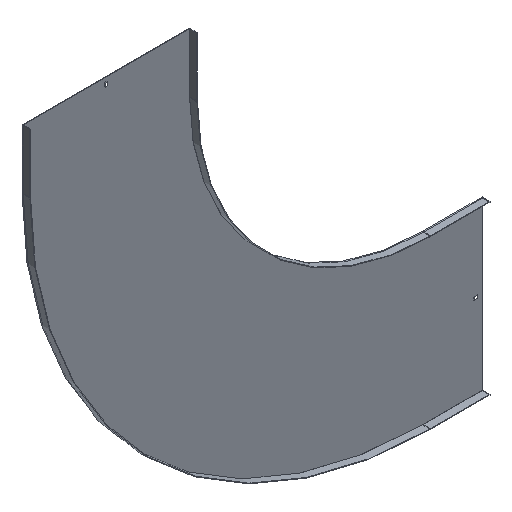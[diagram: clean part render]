
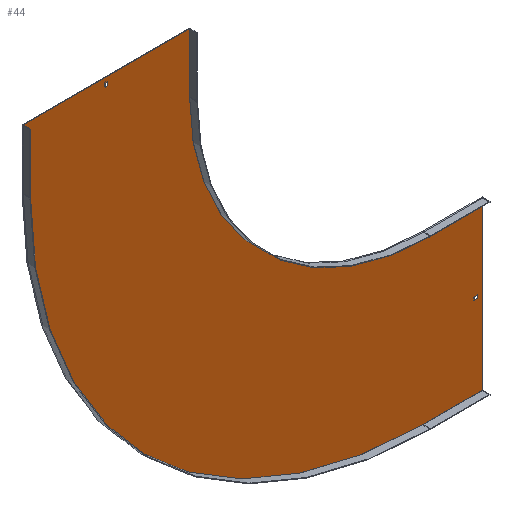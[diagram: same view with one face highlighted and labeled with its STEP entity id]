
A CAD part, isometric view. The second image highlights one B-rep face of the part: STEP entity #44.
In plain terms, the highlighted planar face has unit normal (0, -1, 0).
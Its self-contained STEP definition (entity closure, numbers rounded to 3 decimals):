
#3 = LINE ( 'NONE', #799, #91 ) ;
#6 = CARTESIAN_POINT ( 'NONE',  ( 0., -1.5, -590. ) ) ;
#35 = ORIENTED_EDGE ( 'NONE', *, *, #148, .T. ) ;
#44 = ADVANCED_FACE ( 'NONE', ( #124, #254, #797 ), #120, .T. ) ;
#50 = VECTOR ( 'NONE', #519, 1000. ) ;
#52 = CARTESIAN_POINT ( 'NONE',  ( -803.25, -1.5, 129. ) ) ;
#60 = VERTEX_POINT ( 'NONE', #396 ) ;
#61 = DIRECTION ( 'NONE',  ( 0., 0., -1. ) ) ;
#63 = EDGE_LOOP ( 'NONE', ( #78, #383, #632, #319, #153, #361, #242, #105 ) ) ;
#75 = LINE ( 'NONE', #672, #530 ) ;
#77 = CARTESIAN_POINT ( 'NONE',  ( -796.75, -1.5, 0. ) ) ;
#78 = ORIENTED_EDGE ( 'NONE', *, *, #358, .F. ) ;
#89 = CARTESIAN_POINT ( 'NONE',  ( 138., -1.5, -803.25 ) ) ;
#91 = VECTOR ( 'NONE', #834, 1000. ) ;
#99 = CARTESIAN_POINT ( 'NONE',  ( 0., -1.5, 0. ) ) ;
#105 = ORIENTED_EDGE ( 'NONE', *, *, #645, .F. ) ;
#108 = EDGE_CURVE ( 'NONE', #429, #258, #157, .T. ) ;
#113 = LINE ( 'NONE', #77, #514 ) ;
#115 = CARTESIAN_POINT ( 'NONE',  ( 129., -1.5, -803.25 ) ) ;
#120 = PLANE ( 'NONE',  #489 ) ;
#124 = FACE_BOUND ( 'NONE', #522, .T. ) ;
#136 = DIRECTION ( 'NONE',  ( 0., -1., 0. ) ) ;
#148 = EDGE_CURVE ( 'NONE', #745, #659, #479, .T. ) ;
#153 = ORIENTED_EDGE ( 'NONE', *, *, #831, .F. ) ;
#157 = LINE ( 'NONE', #281, #529 ) ;
#169 = CARTESIAN_POINT ( 'NONE',  ( -1010., -1.5, 150. ) ) ;
#171 = CARTESIAN_POINT ( 'NONE',  ( -590., -1.5, 150. ) ) ;
#185 = LINE ( 'NONE', #852, #50 ) ;
#188 = DIRECTION ( 'NONE',  ( 0., -1., 0. ) ) ;
#217 = EDGE_CURVE ( 'NONE', #659, #829, #560, .T. ) ;
#225 = VECTOR ( 'NONE', #756, 1000. ) ;
#229 = VERTEX_POINT ( 'NONE', #169 ) ;
#234 = CARTESIAN_POINT ( 'NONE',  ( 150., -1.5, -590. ) ) ;
#242 = ORIENTED_EDGE ( 'NONE', *, *, #757, .F. ) ;
#244 = CARTESIAN_POINT ( 'NONE',  ( -1010., -1.5, 0. ) ) ;
#247 = VECTOR ( 'NONE', #842, 1000. ) ;
#254 = FACE_OUTER_BOUND ( 'NONE', #63, .T. ) ;
#258 = VERTEX_POINT ( 'NONE', #642 ) ;
#268 = CARTESIAN_POINT ( 'NONE',  ( -590., -1.5, 0. ) ) ;
#272 = CARTESIAN_POINT ( 'NONE',  ( 150., -1.5, -588.5 ) ) ;
#278 = DIRECTION ( 'NONE',  ( 1., 0., 0. ) ) ;
#281 = CARTESIAN_POINT ( 'NONE',  ( 150., -1.5, -1010. ) ) ;
#296 = DIRECTION ( 'NONE',  ( 1., 0., 0. ) ) ;
#300 = EDGE_CURVE ( 'NONE', #773, #229, #303, .T. ) ;
#303 = LINE ( 'NONE', #244, #331 ) ;
#307 = ORIENTED_EDGE ( 'NONE', *, *, #656, .F. ) ;
#308 = LINE ( 'NONE', #582, #247 ) ;
#309 = EDGE_CURVE ( 'NONE', #258, #773, #680, .T. ) ;
#319 = ORIENTED_EDGE ( 'NONE', *, *, #108, .F. ) ;
#331 = VECTOR ( 'NONE', #439, 1000. ) ;
#332 = CARTESIAN_POINT ( 'NONE',  ( 129., -1.5, -796.75 ) ) ;
#335 = CARTESIAN_POINT ( 'NONE',  ( -1010., -1.5, 0. ) ) ;
#339 = LINE ( 'NONE', #272, #596 ) ;
#340 = CARTESIAN_POINT ( 'NONE',  ( 150., -1.5, -1010. ) ) ;
#345 = CARTESIAN_POINT ( 'NONE',  ( 0., -1.5, 0. ) ) ;
#351 = CARTESIAN_POINT ( 'NONE',  ( 0., -1.5, -796.75 ) ) ;
#358 = EDGE_CURVE ( 'NONE', #229, #451, #517, .T. ) ;
#361 = ORIENTED_EDGE ( 'NONE', *, *, #822, .F. ) ;
#364 = VECTOR ( 'NONE', #278, 1000. ) ;
#376 = ORIENTED_EDGE ( 'NONE', *, *, #768, .F. ) ;
#380 = ORIENTED_EDGE ( 'NONE', *, *, #395, .T. ) ;
#383 = ORIENTED_EDGE ( 'NONE', *, *, #300, .F. ) ;
#395 = EDGE_CURVE ( 'NONE', #781, #745, #113, .T. ) ;
#396 = CARTESIAN_POINT ( 'NONE',  ( 138., -1.5, -796.75 ) ) ;
#397 = DIRECTION ( 'NONE',  ( -1., 0., 0. ) ) ;
#408 = CARTESIAN_POINT ( 'NONE',  ( 0., -1.5, 0. ) ) ;
#410 = DIRECTION ( 'NONE',  ( 0., 0., -1. ) ) ;
#418 = AXIS2_PLACEMENT_3D ( 'NONE', #99, #583, #446 ) ;
#429 = VERTEX_POINT ( 'NONE', #340 ) ;
#439 = DIRECTION ( 'NONE',  ( 0., 0., 1. ) ) ;
#445 = VECTOR ( 'NONE', #296, 1000. ) ;
#446 = DIRECTION ( 'NONE',  ( 0., 0., -1. ) ) ;
#451 = VERTEX_POINT ( 'NONE', #586 ) ;
#474 = ORIENTED_EDGE ( 'NONE', *, *, #615, .T. ) ;
#479 = LINE ( 'NONE', #742, #623 ) ;
#489 = AXIS2_PLACEMENT_3D ( 'NONE', #408, #188, #61 ) ;
#502 = CARTESIAN_POINT ( 'NONE',  ( -1011.5, -1.5, 150. ) ) ;
#510 = EDGE_CURVE ( 'NONE', #741, #576, #3, .T. ) ;
#512 = VERTEX_POINT ( 'NONE', #234 ) ;
#514 = VECTOR ( 'NONE', #410, 1000. ) ;
#517 = LINE ( 'NONE', #502, #445 ) ;
#519 = DIRECTION ( 'NONE',  ( 1., 0., 0. ) ) ;
#522 = EDGE_LOOP ( 'NONE', ( #755, #307, #549, #376 ) ) ;
#529 = VECTOR ( 'NONE', #546, 1000. ) ;
#530 = VECTOR ( 'NONE', #668, 1000. ) ;
#535 = DIRECTION ( 'NONE',  ( 0., 0., -1. ) ) ;
#546 = DIRECTION ( 'NONE',  ( -1., 0., 0. ) ) ;
#549 = ORIENTED_EDGE ( 'NONE', *, *, #510, .F. ) ;
#560 = LINE ( 'NONE', #824, #225 ) ;
#563 = AXIS2_PLACEMENT_3D ( 'NONE', #345, #136, #535 ) ;
#576 = VERTEX_POINT ( 'NONE', #89 ) ;
#582 = CARTESIAN_POINT ( 'NONE',  ( 138., -1.5, 0. ) ) ;
#583 = DIRECTION ( 'NONE',  ( 0., 1., 0. ) ) ;
#585 = VECTOR ( 'NONE', #654, 1000. ) ;
#586 = CARTESIAN_POINT ( 'NONE',  ( -590., -1.5, 150. ) ) ;
#596 = VECTOR ( 'NONE', #862, 1000. ) ;
#615 = EDGE_CURVE ( 'NONE', #829, #781, #185, .T. ) ;
#623 = VECTOR ( 'NONE', #626, 1000. ) ;
#626 = DIRECTION ( 'NONE',  ( -1., 0., 0. ) ) ;
#632 = ORIENTED_EDGE ( 'NONE', *, *, #309, .F. ) ;
#642 = CARTESIAN_POINT ( 'NONE',  ( 0., -1.5, -1010. ) ) ;
#644 = LINE ( 'NONE', #171, #585 ) ;
#645 = EDGE_CURVE ( 'NONE', #451, #750, #644, .T. ) ;
#649 = CARTESIAN_POINT ( 'NONE',  ( -796.75, -1.5, 129. ) ) ;
#654 = DIRECTION ( 'NONE',  ( 0., 0., -1. ) ) ;
#656 = EDGE_CURVE ( 'NONE', #576, #60, #308, .T. ) ;
#658 = CARTESIAN_POINT ( 'NONE',  ( 0., -1.5, -590. ) ) ;
#659 = VERTEX_POINT ( 'NONE', #52 ) ;
#668 = DIRECTION ( 'NONE',  ( 0., 0., -1. ) ) ;
#672 = CARTESIAN_POINT ( 'NONE',  ( 129., -1.5, 0. ) ) ;
#680 = CIRCLE ( 'NONE', #418, 1010. ) ;
#709 = CIRCLE ( 'NONE', #563, 590. ) ;
#723 = LINE ( 'NONE', #658, #364 ) ;
#728 = CARTESIAN_POINT ( 'NONE',  ( -796.75, -1.5, 138. ) ) ;
#731 = CARTESIAN_POINT ( 'NONE',  ( -803.25, -1.5, 138. ) ) ;
#735 = EDGE_LOOP ( 'NONE', ( #474, #380, #35, #815 ) ) ;
#741 = VERTEX_POINT ( 'NONE', #115 ) ;
#742 = CARTESIAN_POINT ( 'NONE',  ( 0., -1.5, 129. ) ) ;
#745 = VERTEX_POINT ( 'NONE', #649 ) ;
#750 = VERTEX_POINT ( 'NONE', #268 ) ;
#752 = VECTOR ( 'NONE', #397, 1000. ) ;
#755 = ORIENTED_EDGE ( 'NONE', *, *, #792, .F. ) ;
#756 = DIRECTION ( 'NONE',  ( 0., 0., 1. ) ) ;
#757 = EDGE_CURVE ( 'NONE', #750, #794, #709, .T. ) ;
#768 = EDGE_CURVE ( 'NONE', #863, #741, #75, .T. ) ;
#773 = VERTEX_POINT ( 'NONE', #335 ) ;
#781 = VERTEX_POINT ( 'NONE', #728 ) ;
#792 = EDGE_CURVE ( 'NONE', #60, #863, #795, .T. ) ;
#794 = VERTEX_POINT ( 'NONE', #6 ) ;
#795 = LINE ( 'NONE', #351, #752 ) ;
#797 = FACE_BOUND ( 'NONE', #735, .T. ) ;
#799 = CARTESIAN_POINT ( 'NONE',  ( 0., -1.5, -803.25 ) ) ;
#815 = ORIENTED_EDGE ( 'NONE', *, *, #217, .T. ) ;
#822 = EDGE_CURVE ( 'NONE', #794, #512, #723, .T. ) ;
#824 = CARTESIAN_POINT ( 'NONE',  ( -803.25, -1.5, 0. ) ) ;
#829 = VERTEX_POINT ( 'NONE', #731 ) ;
#831 = EDGE_CURVE ( 'NONE', #512, #429, #339, .T. ) ;
#834 = DIRECTION ( 'NONE',  ( 1., 0., 0. ) ) ;
#842 = DIRECTION ( 'NONE',  ( 0., 0., 1. ) ) ;
#852 = CARTESIAN_POINT ( 'NONE',  ( 0., -1.5, 138. ) ) ;
#862 = DIRECTION ( 'NONE',  ( 0., 0., -1. ) ) ;
#863 = VERTEX_POINT ( 'NONE', #332 ) ;
